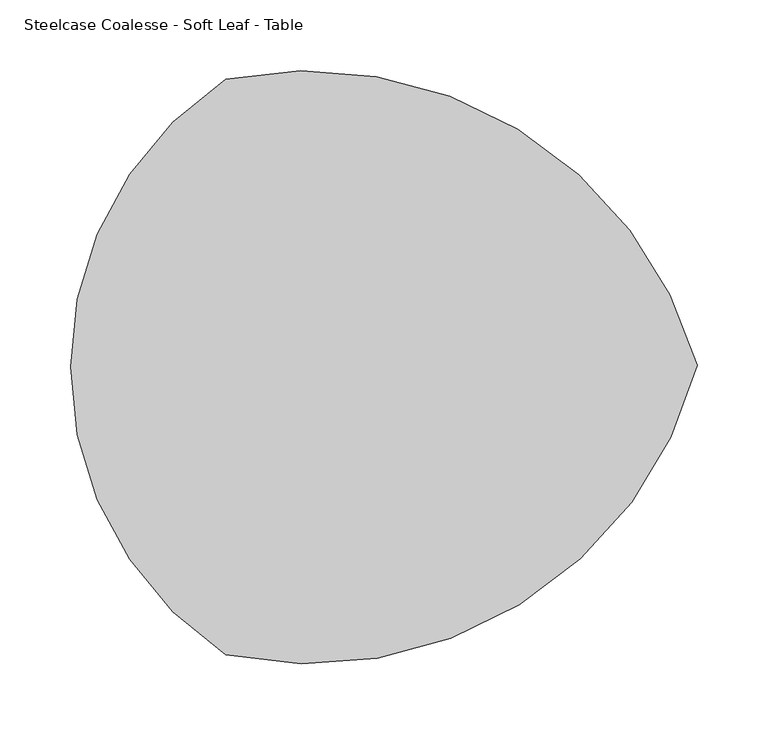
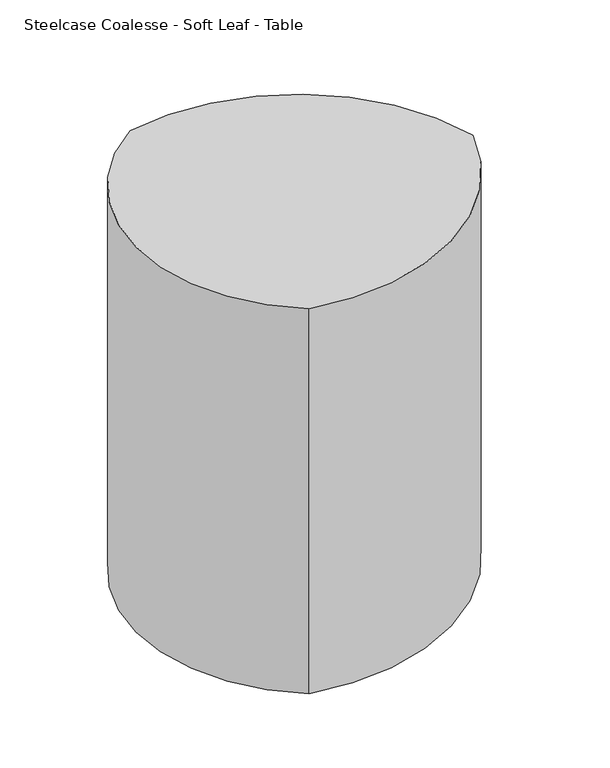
"""IFC4 building model written with IfcOpenShell, lengths in millimetres: furniture geometry, Steelcase Coalesse - Soft Leaf - Table : 16D x 17 1/2W."""

from ifc_helpers import new_model, si_unit, point, frame_2d, origin, origin_with_axes, place, context, project, spatial, circle_curve, trimmed, segment, composite_curve, outline, extrude, source, transform, mapped, element, save


def steelcase_coalesse_soft_leaf_table_c48d6028(model_context):
    return source(origin(), model_context, "Body", "SweptSolid", [
        extrude(outline(composite_curve([segment(trimmed(circle_curve(frame_2d((632.7773947, -204.2599059)), 243.5671211), [point((498.5038857, -407.4730139))], [point((498.5038857, -1.0467979))], False, "CARTESIAN"), True, "CONTINUOUS"), segment(trimmed(circle_curve(frame_2d((556.7026288, -280.6479279)), 285.5939172), [point((498.5038857, -1.0467979))], [point((831.5947968, -203.2))], False, "CARTESIAN"), True, "CONTINUOUS"), segment(trimmed(circle_curve(frame_2d((558.4973966, -131.5911667)), 282.3296211), [point((831.5947968, -203.2))], [point((498.5038857, -407.4730139))], False, "CARTESIAN"), True, "CONTINUOUS")], self_intersect=False)), origin_with_axes(), (0.0, 0.0, 1.0), 533.4019608),
    ])


if __name__ == "__main__":
    model = new_model("IFC4")
    model_context = context("Model", 3, world=origin())
    ifc_project = project(units=[si_unit("LENGTHUNIT", "METRE", prefix="MILLI")], contexts=[model_context])
    site = spatial("IfcSite", under=ifc_project)
    building = spatial("IfcBuilding", under=site)
    placement = place(None, origin())
    steelcase_coalesse_soft_leaf_table_shape = steelcase_coalesse_soft_leaf_table_c48d6028(model_context)
    element("IfcFurniture", 1, ObjectType="Steelcase Coalesse - Soft Leaf - Table : 16D x 17 1/2W", at=placement, inside=building, context=model_context, shape_type="MappedRepresentation", body=[
        mapped(steelcase_coalesse_soft_leaf_table_shape, transform((0.0, 0.0, 0.0), x_axis=(1.0, 0.0, 0.0), y_axis=(0.0, 1.0, 0.0), z_axis=(0.0, 0.0, 1.0))),
    ])
    save(model, "model.ifc")
